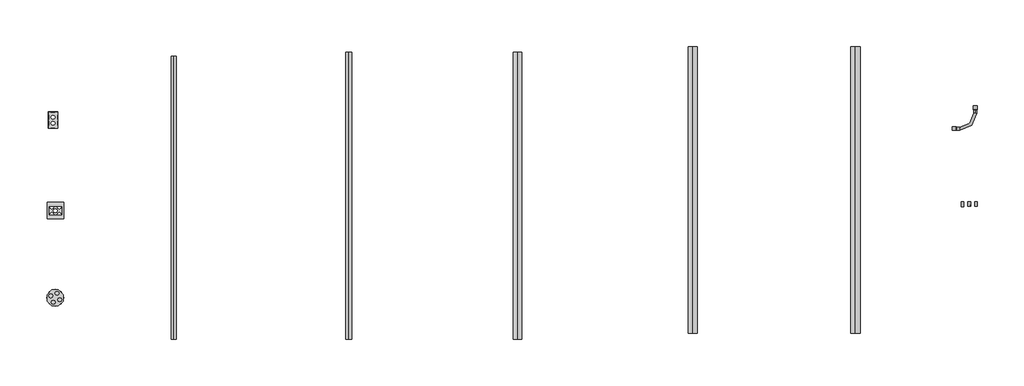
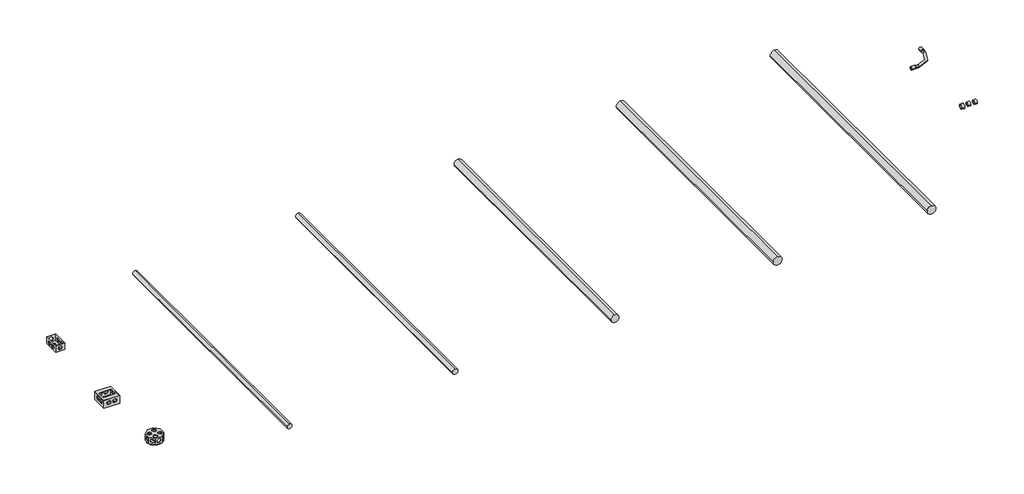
# One storey, incomplete: 11 cable carrier fittings, 5 cable carrier segments.
"""IFC4 building model written with IfcOpenShell, lengths in millimetres."""

from ifc_helpers import new_model, si_unit, point, frame, frame_2d, origin, place, context, project, spatial, circle_curve, trimmed, segment, composite_curve, outline, extrude, transform, mapped, element, save
from components import cable_carrier_fitting_4c42fae0, cable_carrier_fitting_70b79c4b, cable_carrier_fitting_d448ec8e, gris_01a32dd9, gris_4311d6c2, var_5554e04d, var_aeb41feb, var_b6930540, var_e6148d44, var_af42244a

model = new_model("IFC4")

# Units and contexts
model_context = context("Model", 3, world=origin())
ifc_project = project(units=[si_unit("LENGTHUNIT", "METRE", prefix="MILLI")], contexts=[model_context])

# Site, building, storey
site = spatial("IfcSite", under=ifc_project)
building = spatial("IfcBuilding", under=site)
storey = spatial("IfcBuildingStorey", under=building, Name="Línea Eléctrica", Elevation=0.0)

# Cable carrier fittings
placement = place(None, origin())
cable_carrier_fitting_shape = cable_carrier_fitting_4c42fae0(model_context)
element("IfcCableCarrierFitting", 1, ObjectType="AmancoWavin_ConduitFittings_ConectorMacho_U : Naranja de ½ y ¾\"", at=placement, inside=storey, context=model_context, shape_type="MappedRepresentation", body=[
    mapped(cable_carrier_fitting_shape, transform((4541.1772115, 3425.637851, 0.0), x_axis=(1.0, 0.0, 0.0), y_axis=(0.0, 1.0, 0.0), z_axis=(0.0, 0.0, 1.0))),
])
cable_carrier_fitting_2_shape = cable_carrier_fitting_70b79c4b(model_context)
element("IfcCableCarrierFitting", 2, ObjectType="AmancoWavin_ConduitFittings_ConectorMacho_U : Gris de ½ y ¾\"", at=placement, inside=storey, context=model_context, shape_type="MappedRepresentation", body=[
    mapped(cable_carrier_fitting_2_shape, transform((4585.27217, 3425.1444275, 0.0), x_axis=(1.0, 0.0, 0.0), y_axis=(0.0, 1.0, 0.0), z_axis=(0.0, 0.0, 1.0))),
])
cable_carrier_fitting_3_shape = cable_carrier_fitting_d448ec8e(model_context)
element("IfcCableCarrierFitting", 3, ObjectType="AmancoWavin_ConduitFittings_ConectorMacho_U : Conduflex de ½ a 1\"", at=placement, inside=storey, context=model_context, shape_type="MappedRepresentation", body=[
    mapped(cable_carrier_fitting_3_shape, transform((4497.9201195, 3424.2162323, 0.0), x_axis=(1.0, 0.0, 0.0), y_axis=(0.0, 1.0, 0.0), z_axis=(0.0, 0.0, 1.0))),
])
gris_shape = gris_01a32dd9(model_context)
element("IfcCableCarrierFitting", 4, ObjectType="AmancoWavin_ConduitFittings_Curva : Gris", at=placement, inside=storey, context=model_context, shape_type="MappedRepresentation", body=[
    mapped(gris_shape, transform((4572.3205944, 3909.4141265, 0.0), x_axis=(1.0, 0.0, 0.0), y_axis=(0.0, 1.0, 0.0), z_axis=(0.0, 0.0, 1.0))),
])
gris_2_shape = gris_4311d6c2(model_context)
element("IfcCableCarrierFitting", 5, ObjectType="AmancoWavin_ConduitFittings_ZnoUsarCampana : Gris", at=placement, inside=storey, context=model_context, shape_type="MappedRepresentation", body=[
    mapped(gris_2_shape, transform((4451.7405944, 3909.4141265, 0.0), x_axis=(1.0, 0.0, 0.0), y_axis=(0.0, 1.0, 0.0), z_axis=(0.0, 0.0, 1.0))),
])
element("IfcCableCarrierFitting", 6, ObjectType="AmancoWavin_ConduitFittings_ZnoUsarCampana : Gris", at=placement, inside=storey, context=model_context, shape_type="MappedRepresentation", body=[
    mapped(gris_2_shape, transform((4572.3205944, 4029.9941265, 0.0), x_axis=(0.0, -1.0, 0.0), y_axis=(1.0, 0.0, 0.0), z_axis=(0.0, 0.0, 1.0))),
])
var_shape = var_5554e04d(model_context)
element("IfcCableCarrierFitting", 7, ObjectType="AmancoWavin_ConduitFittings_ZnoUsarTapaCuadrada : Var.", at=placement, inside=storey, context=model_context, shape_type="MappedRepresentation", body=[
    mapped(var_shape, transform((-1336.4751608, 3329.2958197, 0.0), x_axis=(0.0, 0.0, 1.0), y_axis=(1.0, 0.0, 0.0), z_axis=(0.0, 1.0, 0.0))),
])
var_2_shape = var_aeb41feb(model_context)
element("IfcCableCarrierFitting", 8, ObjectType="AmancoWavin_ConduitFittings_CajaOctogonal : Var.", at=placement, inside=storey, context=model_context, shape_type="MappedRepresentation", body=[
    mapped(var_2_shape, transform((-1338.1154983, 2822.8887134, 10.0), x_axis=(1.0, 0.0, 0.0), y_axis=(0.0, 1.0, 0.0), z_axis=(0.0, 0.0, 1.0))),
])
var_3_shape = var_b6930540(model_context)
element("IfcCableCarrierFitting", 9, ObjectType="AmancoWavin_ConduitFittings_CajaCuadrada : Var.", at=placement, inside=storey, context=model_context, shape_type="MappedRepresentation", body=[
    mapped(var_3_shape, transform((-1336.4751608, 3329.2958197, 0.0), x_axis=(0.0, 0.0, 1.0), y_axis=(1.0, 0.0, 0.0), z_axis=(0.0, 1.0, 0.0))),
])
var_4_shape = var_e6148d44(model_context)
element("IfcCableCarrierFitting", 10, ObjectType="AmancoWavin_ConduitFittings_CajaRectangular : Var.", at=placement, inside=storey, context=model_context, shape_type="MappedRepresentation", body=[
    mapped(var_4_shape, transform((-1351.8911523, 3911.0014919, 40.0), x_axis=(0.0, 0.0, 1.0), y_axis=(1.0, 0.0, 0.0), z_axis=(0.0, 1.0, 0.0))),
])
var_5_shape = var_af42244a(model_context)
element("IfcCableCarrierFitting", 11, ObjectType="AmancoWavin_ConduitFittings_ZnoUsarTapaOctogonal : Var.", at=placement, inside=storey, context=model_context, shape_type="MappedRepresentation", body=[
    mapped(var_5_shape, transform((-1338.1154983, 2822.8887134, 10.0), x_axis=(1.0, 0.0, 0.0), y_axis=(0.0, 1.0, 0.0), z_axis=(0.0, 0.0, 1.0))),
])

# Cable carrier segments
element("IfcCableCarrierSegment", 12, ObjectType="AmancoWavin_Conduflex_de½a1\"", at=placement, inside=storey, context=model_context, shape_type="SweptSolid", body=[
    extrude(outline(composite_curve([segment(trimmed(circle_curve(frame_2d((0.0, -575.9150823)), 16.66875), [point((0.0, -559.2463323))], [point((16.66875, -575.9150823))], False, "CARTESIAN"), True, "CONTINUOUS"), segment(trimmed(circle_curve(frame_2d((0.0, -575.9150823)), 16.66875), [point((16.66875, -575.9150823))], [point((0.0, -592.5838323))], False, "CARTESIAN"), True, "CONTINUOUS"), segment(trimmed(circle_curve(frame_2d((0.0, -575.9150823)), 16.66875), [point((0.0, -592.5838323))], [point((-16.66875, -575.9150823))], False, "CARTESIAN"), True, "CONTINUOUS"), segment(trimmed(circle_curve(frame_2d((0.0, -575.9150823)), 16.66875), [point((-16.66875, -575.9150823))], [point((0.0, -559.2463323))], False, "CARTESIAN"), True, "CONTINUOUS")], self_intersect=False)), frame((0.0, 2557.5585503, 0.0), z_axis=(0.0, 1.0, 0.0), x_axis=(0.0, 0.0, 1.0)), (0.0, 0.0, 1.0), 1815.4339684),
])
element("IfcCableCarrierSegment", 13, ObjectType="AmancoWavin_ConduitGris_de½a2\"", at=placement, inside=storey, context=model_context, shape_type="SweptSolid", body=[
    extrude(outline(composite_curve([segment(trimmed(circle_curve(frame_2d((0.0, 1633.3053049)), 27.384375), [point((0.0, 1660.6896799))], [point((27.384375, 1633.3053049))], False, "CARTESIAN"), True, "CONTINUOUS"), segment(trimmed(circle_curve(frame_2d((0.0, 1633.3053049)), 27.384375), [point((27.384375, 1633.3053049))], [point((0.0, 1605.9209299))], False, "CARTESIAN"), True, "CONTINUOUS"), segment(trimmed(circle_curve(frame_2d((0.0, 1633.3053049)), 27.384375), [point((0.0, 1605.9209299))], [point((-27.384375, 1633.3053049))], False, "CARTESIAN"), True, "CONTINUOUS"), segment(trimmed(circle_curve(frame_2d((0.0, 1633.3053049)), 27.384375), [point((-27.384375, 1633.3053049))], [point((0.0, 1660.6896799))], False, "CARTESIAN"), True, "CONTINUOUS")], self_intersect=False)), frame((0.0, 2557.5585503, 0.0), z_axis=(0.0, 1.0, 0.0), x_axis=(0.0, 0.0, 1.0)), (0.0, 0.0, 1.0), 1842.8653899),
])
element("IfcCableCarrierSegment", 14, ObjectType="AmancoWavin_ConduitNaranja_de½a1¼\"", at=placement, inside=storey, context=model_context, shape_type="SweptSolid", body=[
    extrude(outline(composite_curve([segment(trimmed(circle_curve(frame_2d((0.0, 548.6951113)), 19.05), [point((0.0, 567.7451113))], [point((19.05, 548.6951113))], False, "CARTESIAN"), True, "CONTINUOUS"), segment(trimmed(circle_curve(frame_2d((0.0, 548.6951113)), 19.05), [point((19.05, 548.6951113))], [point((0.0, 529.6451113))], False, "CARTESIAN"), True, "CONTINUOUS"), segment(trimmed(circle_curve(frame_2d((0.0, 548.6951113)), 19.05), [point((0.0, 529.6451113))], [point((-19.05, 548.6951113))], False, "CARTESIAN"), True, "CONTINUOUS"), segment(trimmed(circle_curve(frame_2d((0.0, 548.6951113)), 19.05), [point((-19.05, 548.6951113))], [point((0.0, 567.7451113))], False, "CARTESIAN"), True, "CONTINUOUS")], self_intersect=False)), frame((0.0, 2557.5585503, 0.0), z_axis=(0.0, 1.0, 0.0), x_axis=(0.0, 0.0, 1.0)), (0.0, 0.0, 1.0), 1842.8653899),
])
element("IfcCableCarrierSegment", 15, ObjectType="AmancoWavin_ConduitSCH40_de½a4\"", at=placement, inside=storey, context=model_context, shape_type="SweptSolid", body=[
    extrude(outline(composite_curve([segment(trimmed(circle_curve(frame_2d((0.0, 2757.9154985)), 30.1625), [point((0.0, 2788.0779985))], [point((30.1625, 2757.9154985))], False, "CARTESIAN"), True, "CONTINUOUS"), segment(trimmed(circle_curve(frame_2d((0.0, 2757.9154985)), 30.1625), [point((30.1625, 2757.9154985))], [point((0.0, 2727.7529985))], False, "CARTESIAN"), True, "CONTINUOUS"), segment(trimmed(circle_curve(frame_2d((0.0, 2757.9154985)), 30.1625), [point((0.0, 2727.7529985))], [point((-30.1625, 2757.9154985))], False, "CARTESIAN"), True, "CONTINUOUS"), segment(trimmed(circle_curve(frame_2d((0.0, 2757.9154985)), 30.1625), [point((-30.1625, 2757.9154985))], [point((0.0, 2788.0779985))], False, "CARTESIAN"), True, "CONTINUOUS")], self_intersect=False)), frame((0.0, 2594.0371421, 0.0), z_axis=(0.0, 1.0, 0.0), x_axis=(0.0, 0.0, 1.0)), (0.0, 0.0, 1.0), 1842.8653899),
])
element("IfcCableCarrierSegment", 16, ObjectType="AmancoWavin_ConduitTipoA_de½a4\"", at=placement, inside=storey, context=model_context, shape_type="SweptSolid", body=[
    extrude(outline(composite_curve([segment(trimmed(circle_curve(frame_2d((0.0, 3802.5256921)), 30.1625), [point((0.0, 3832.6881921))], [point((30.1625, 3802.5256921))], False, "CARTESIAN"), True, "CONTINUOUS"), segment(trimmed(circle_curve(frame_2d((0.0, 3802.5256921)), 30.1625), [point((30.1625, 3802.5256921))], [point((0.0, 3772.3631921))], False, "CARTESIAN"), True, "CONTINUOUS"), segment(trimmed(circle_curve(frame_2d((0.0, 3802.5256921)), 30.1625), [point((0.0, 3772.3631921))], [point((-30.1625, 3802.5256921))], False, "CARTESIAN"), True, "CONTINUOUS"), segment(trimmed(circle_curve(frame_2d((0.0, 3802.5256921)), 30.1625), [point((-30.1625, 3802.5256921))], [point((0.0, 3832.6881921))], False, "CARTESIAN"), True, "CONTINUOUS")], self_intersect=False)), frame((0.0, 2594.0371421, 0.0), z_axis=(0.0, 1.0, 0.0), x_axis=(0.0, 0.0, 1.0)), (0.0, 0.0, 1.0), 1842.8653899),
])

save(model, "model.ifc")
